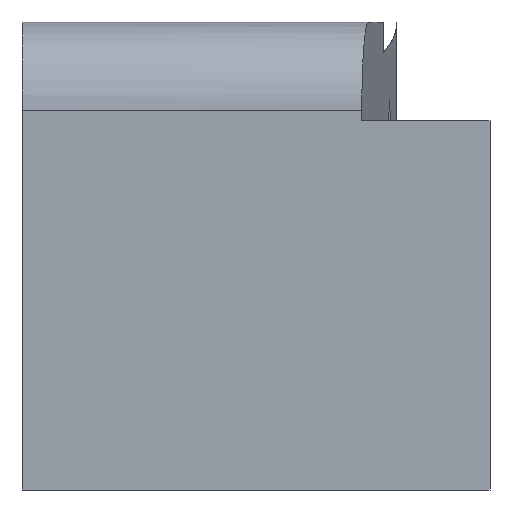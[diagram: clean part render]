
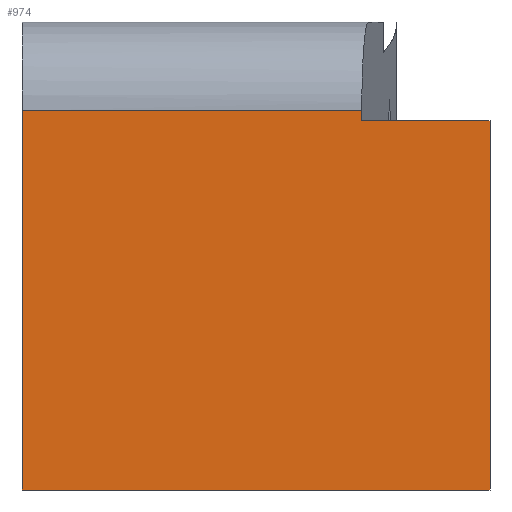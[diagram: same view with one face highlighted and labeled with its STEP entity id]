
A CAD part, left-side view. The second image highlights one B-rep face of the part: STEP entity #974.
In plain terms, the highlighted planar face has unit normal (-1, 0, 0).
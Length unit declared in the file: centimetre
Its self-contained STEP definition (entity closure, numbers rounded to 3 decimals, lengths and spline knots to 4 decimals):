
#47 = VERTEX_POINT ( 'NONE', #1106 ) ;
#70 = DIRECTION ( 'NONE',  ( 0., 0., -1. ) ) ;
#71 = EDGE_CURVE ( 'NONE', #847, #139, #72, .T. ) ;
#72 = LINE ( 'NONE', #990, #87 ) ;
#87 = VECTOR ( 'NONE', #148, 100. ) ;
#107 = FACE_OUTER_BOUND ( 'NONE', #303, .T. ) ;
#127 = LINE ( 'NONE', #956, #793 ) ;
#139 = VERTEX_POINT ( 'NONE', #569 ) ;
#148 = DIRECTION ( 'NONE',  ( 0., -1., 0. ) ) ;
#212 = DIRECTION ( 'NONE',  ( 0., 0., -1. ) ) ;
#214 = VECTOR ( 'NONE', #70, 100. ) ;
#248 = ORIENTED_EDGE ( 'NONE', *, *, #71, .F. ) ;
#290 = EDGE_CURVE ( 'NONE', #47, #682, #127, .T. ) ;
#303 = EDGE_LOOP ( 'NONE', ( #248, #467, #1077, #799, #606, #585 ) ) ;
#374 = VERTEX_POINT ( 'NONE', #721 ) ;
#389 = CARTESIAN_POINT ( 'NONE',  ( 0., 273.9793, 810.4673 ) ) ;
#420 = LINE ( 'NONE', #1068, #1164 ) ;
#425 = CARTESIAN_POINT ( 'NONE',  ( 0., 1000., 810.4673 ) ) ;
#467 = ORIENTED_EDGE ( 'NONE', *, *, #912, .T. ) ;
#471 = EDGE_CURVE ( 'NONE', #139, #374, #632, .T. ) ;
#491 = DIRECTION ( 'NONE',  ( 0., 0., -1. ) ) ;
#538 = VECTOR ( 'NONE', #898, 100. ) ;
#569 = CARTESIAN_POINT ( 'NONE',  ( 0., 0., 788.9607 ) ) ;
#570 = DIRECTION ( 'NONE',  ( 1., 0., 0. ) ) ;
#585 = ORIENTED_EDGE ( 'NONE', *, *, #471, .F. ) ;
#605 = LINE ( 'NONE', #425, #1102 ) ;
#606 = ORIENTED_EDGE ( 'NONE', *, *, #1045, .T. ) ;
#632 = LINE ( 'NONE', #1208, #214 ) ;
#650 = AXIS2_PLACEMENT_3D ( 'NONE', #781, #570, #491 ) ;
#682 = VERTEX_POINT ( 'NONE', #1132 ) ;
#721 = CARTESIAN_POINT ( 'NONE',  ( 0., 0., 0. ) ) ;
#768 = DIRECTION ( 'NONE',  ( 0., -1., 0. ) ) ;
#777 = EDGE_CURVE ( 'NONE', #1038, #47, #605, .T. ) ;
#781 = CARTESIAN_POINT ( 'NONE',  ( 0., 1000., 1000. ) ) ;
#793 = VECTOR ( 'NONE', #212, 100. ) ;
#799 = ORIENTED_EDGE ( 'NONE', *, *, #290, .T. ) ;
#817 = CARTESIAN_POINT ( 'NONE',  ( 0., 273.9793, 788.9607 ) ) ;
#847 = VERTEX_POINT ( 'NONE', #973 ) ;
#898 = DIRECTION ( 'NONE',  ( 0., 0., 1. ) ) ;
#912 = EDGE_CURVE ( 'NONE', #847, #1038, #1157, .T. ) ;
#956 = CARTESIAN_POINT ( 'NONE',  ( 0., 1000., 1000. ) ) ;
#973 = CARTESIAN_POINT ( 'NONE',  ( 0., 273.9793, 788.9607 ) ) ;
#974 = ADVANCED_FACE ( 'NONE', ( #107 ), #1161, .F. ) ;
#990 = CARTESIAN_POINT ( 'NONE',  ( 0., 273.9793, 788.9607 ) ) ;
#1038 = VERTEX_POINT ( 'NONE', #389 ) ;
#1045 = EDGE_CURVE ( 'NONE', #682, #374, #420, .T. ) ;
#1068 = CARTESIAN_POINT ( 'NONE',  ( 0., 1000., 0. ) ) ;
#1077 = ORIENTED_EDGE ( 'NONE', *, *, #777, .T. ) ;
#1094 = DIRECTION ( 'NONE',  ( 0., 1., 0. ) ) ;
#1102 = VECTOR ( 'NONE', #1094, 100. ) ;
#1106 = CARTESIAN_POINT ( 'NONE',  ( 0., 1000., 810.4673 ) ) ;
#1132 = CARTESIAN_POINT ( 'NONE',  ( 0., 1000., 0. ) ) ;
#1157 = LINE ( 'NONE', #817, #538 ) ;
#1161 = PLANE ( 'NONE',  #650 ) ;
#1164 = VECTOR ( 'NONE', #768, 100. ) ;
#1208 = CARTESIAN_POINT ( 'NONE',  ( 0., 0., 1000. ) ) ;
